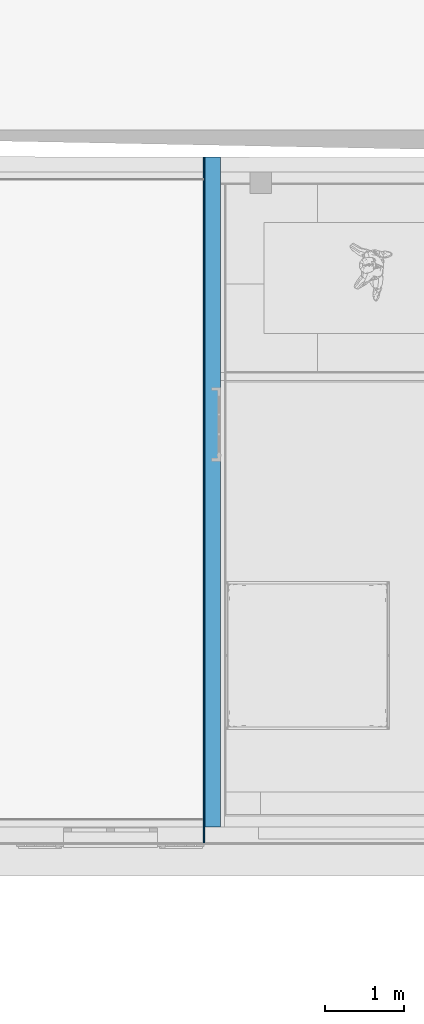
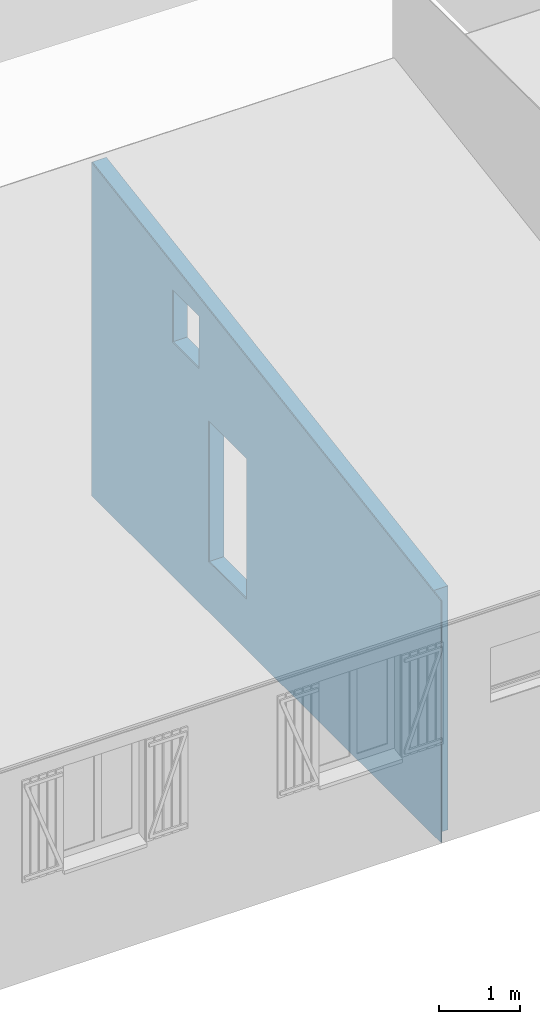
# One storey, part 11 of 24: 2 building element parts, 2 openings, 1 element without a shape of its own.
"""IFC2X3 building model written with IfcOpenShell, lengths in metres."""

from ifc_helpers import new_model, entity, si_unit, converted_unit, derived_unit, money_unit, direction, frame, origin_with_axes, origin_2d_with_axis, place, context, subcontext, project, spatial, polyline, rectangle, outline, extrude, boolean, faceted_brep, material, type_object, element, aggregate, save


model = new_model("IFC2X3")

# Units and contexts
model_context = context("Model", 3, precision=1e-05, world=origin_with_axes(), true_north=direction((0.0, 1.0)))
body_context = subcontext(model_context, "Body", "Model", "MODEL_VIEW")
ifc_project = project(units=[si_unit("LENGTHUNIT", "METRE"), si_unit("AREAUNIT", "SQUARE_METRE"), si_unit("VOLUMEUNIT", "CUBIC_METRE"), converted_unit("PLANEANGLEUNIT", "DEGREE", entity("IfcPlaneAngleMeasure", 0.0174532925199), si_unit("PLANEANGLEUNIT", "RADIAN"), dimensions=[0, 0, 0, 0, 0, 0, 0]), si_unit("SOLIDANGLEUNIT", "STERADIAN"), money_unit("CHF"), converted_unit("TIMEUNIT", "Year", entity("IfcTimeMeasure", 31556926.0), si_unit("TIMEUNIT", "SECOND"), dimensions=[0, 0, 1, 0, 0, 0, 0]), si_unit("MASSUNIT", "GRAM", prefix="KILO"), si_unit("THERMODYNAMICTEMPERATUREUNIT", "DEGREE_CELSIUS"), si_unit("LUMINOUSINTENSITYUNIT", "LUMEN"), si_unit("ENERGYUNIT", "JOULE", prefix="MEGA"), derived_unit("THERMALCONDUCTANCEUNIT", [(si_unit("POWERUNIT", "WATT"), 1), (si_unit("LENGTHUNIT", "METRE"), -1), (si_unit("THERMODYNAMICTEMPERATUREUNIT", "KELVIN"), -1)]), derived_unit("SPECIFICHEATCAPACITYUNIT", [(si_unit("ENERGYUNIT", "JOULE"), 1), (si_unit("MASSUNIT", "GRAM", prefix="KILO"), -1), (si_unit("THERMODYNAMICTEMPERATUREUNIT", "KELVIN"), -1)]), derived_unit("MASSDENSITYUNIT", [(si_unit("MASSUNIT", "GRAM", prefix="KILO"), 1), (si_unit("VOLUMEUNIT", "CUBIC_METRE"), -1)])], contexts=[model_context])

# Site, building, storey
site_placement = place(None, origin_with_axes())
site = spatial("IfcSite", under=ifc_project, at=site_placement, Name="Site", CompositionType="ELEMENT")
building_placement = place(site_placement, origin_with_axes())
building = spatial("IfcBuilding", under=site, at=building_placement, Name="Bâtiment", CompositionType="ELEMENT")
storey_placement = place(building_placement, origin_with_axes())
storey = spatial("IfcBuildingStorey", under=building, at=storey_placement, Name="Rez-de-chaussée", CompositionType="ELEMENT", Elevation=0.0)

# Wall, openings, building element parts
wall_type = type_object("IfcWallType", Name="0.0 - Mur ext: revét ext + maçonnerie 215", PredefinedType="ELEMENTEDWALL")
wall_placement = place(storey_placement, frame((23.6021417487, 7.9529346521, -0.6), z_axis=(0.0, 0.0, 1.0), x_axis=(0.0, 1.0, 0.0)))
wall = element("IfcWall", 1, at=wall_placement, inside=storey, type_object=wall_type, Name="MUR_EXT-003", ObjectType="ELEMENTEDWALL")
opening_1_placement = place(wall_placement, frame((5.065, 0.0, 0.76), z_axis=(0.0, 0.0, 1.0), x_axis=(1.0, 0.0, 0.0)))
element("IfcOpeningElement", 2, at=opening_1_placement, cuts=wall, Name="PORTE-004", context=body_context, shape_type="SweptSolid", body=[
    extrude(rectangle(XDim=0.93, YDim=2.12, at=origin_2d_with_axis()), frame((0.0, 0.215, 1.06), z_axis=(0.0, 1.0, 0.0), x_axis=(1.0, 0.0, 0.0)), (0.0, 0.0, -1.0), 0.645),
])
opening_2_placement = place(wall_placement, frame((-7.9529346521, 23.6021417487, 0.6), z_axis=(0.0, 0.0, 1.0), x_axis=(0.0, -1.0, 0.0)))
element("IfcOpeningElement", 3, at=opening_2_placement, cuts=wall, Name="PERCEMENT-002", ObjectType="EMPTY_OPENING", context=body_context, shape_type="SweptSolid", body=[
    extrude(rectangle(XDim=0.656363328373, YDim=0.787970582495, at=origin_2d_with_axis()), frame((23.8171417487, 14.0536985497, 3.31823561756), z_axis=(1.0, 0.0, 0.0), x_axis=(0.0, 1.0, 0.0)), (0.0, 0.0, -1.0), 0.645),
])
ifc_material_1 = material(Name="Brique ciment (extérieur)")
building_element_part_1_placement = place(wall_placement, origin_with_axes())
building_element_part_1 = element("IfcBuildingElementPart", 4, at=building_element_part_1_placement, material=ifc_material_1, Name="Brique ciment (extérieur)", context=body_context, shape_type="CSG", body=[
    boolean("DIFFERENCE", boolean("DIFFERENCE", boolean("DIFFERENCE", boolean("DIFFERENCE", boolean("DIFFERENCE", boolean("DIFFERENCE", boolean("DIFFERENCE", boolean("DIFFERENCE", extrude(outline(polyline([(-0.215, 0.0), (8.455, 0.0), (8.455, 0.2), (-0.215, 0.2), (-0.215, 0.0)])), origin_with_axes(), (0.0, 0.0, 1.0), 5.5967588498), faceted_brep([(1.25499229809, 0.0, 3.87376334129), (1.28974915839, 0.0, 3.65652623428), (1.38849329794, 0.0, 3.67232480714), (1.35373643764, 0.0, 3.88956191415), (1.25499229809, 0.0879253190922, 3.87376334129), (1.28974915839, 0.0879253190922, 3.65652623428), (1.38849329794, 0.0879253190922, 3.67232480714), (1.35373643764, 0.0879253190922, 3.88956191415)], [[[0, 1, 2, 3]], [[1, 0, 4, 5]], [[2, 1, 5, 6]], [[3, 2, 6, 7]], [[0, 3, 7, 4]], [[4, 7, 6, 5]]])), faceted_brep([(2.53866611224, 0.0, 4.0791447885), (2.57342297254, 0.0, 3.86190768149), (2.67216711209, 0.0, 3.87770625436), (2.63741025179, 0.0, 4.09494336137), (2.53866611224, 0.0879253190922, 4.0791447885), (2.57342297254, 0.0879253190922, 3.86190768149), (2.67216711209, 0.0879253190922, 3.87770625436), (2.63741025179, 0.0879253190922, 4.09494336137)], [[[0, 1, 2, 3]], [[1, 0, 4, 5]], [[2, 1, 5, 6]], [[3, 2, 6, 7]], [[0, 3, 7, 4]], [[4, 7, 6, 5]]])), faceted_brep([(3.8223399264, 0.0, 4.28452623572), (3.85709678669, 0.0, 4.06728912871), (3.95584092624, 0.0, 4.08308770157), (3.92108406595, 0.0, 4.30032480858), (3.8223399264, 0.0879253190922, 4.28452623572), (3.85709678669, 0.0879253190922, 4.06728912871), (3.95584092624, 0.0879253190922, 4.08308770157), (3.92108406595, 0.0879253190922, 4.30032480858)], [[[0, 1, 2, 3]], [[1, 0, 4, 5]], [[2, 1, 5, 6]], [[3, 2, 6, 7]], [[0, 3, 7, 4]], [[4, 7, 6, 5]]])), faceted_brep([(5.10601374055, 0.0, 4.48990768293), (5.14077060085, 0.0, 4.27267057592), (5.2395147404, 0.0, 4.28846914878), (5.2047578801, 0.0, 4.5057062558), (5.10601374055, 0.0879253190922, 4.48990768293), (5.14077060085, 0.0879253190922, 4.27267057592), (5.2395147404, 0.0879253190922, 4.28846914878), (5.2047578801, 0.0879253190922, 4.5057062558)], [[[0, 1, 2, 3]], [[1, 0, 4, 5]], [[2, 1, 5, 6]], [[3, 2, 6, 7]], [[0, 3, 7, 4]], [[4, 7, 6, 5]]])), faceted_brep([(6.3896875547, 0.0, 4.69528913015), (6.424444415, 0.0, 4.47805202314), (6.52318855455, 0.0, 4.493850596), (6.48843169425, 0.0, 4.71108770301), (6.3896875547, 0.0879253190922, 4.69528913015), (6.424444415, 0.0879253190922, 4.47805202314), (6.52318855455, 0.0879253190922, 4.493850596), (6.48843169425, 0.0879253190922, 4.71108770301)], [[[0, 1, 2, 3]], [[1, 0, 4, 5]], [[2, 1, 5, 6]], [[3, 2, 6, 7]], [[0, 3, 7, 4]], [[4, 7, 6, 5]]])), faceted_brep([(7.65083260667, 0.0, 4.89706608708), (7.68558946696, 0.0, 4.67982898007), (7.78433360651, 0.0, 4.69562755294), (7.74957674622, 0.0, 4.91286465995), (7.65083260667, 0.0879253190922, 4.89706608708), (7.68558946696, 0.0879253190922, 4.67982898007), (7.78433360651, 0.0879253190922, 4.69562755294), (7.74957674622, 0.0879253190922, 4.91286465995)], [[[0, 1, 2, 3]], [[1, 0, 4, 5]], [[2, 1, 5, 6]], [[3, 2, 6, 7]], [[0, 3, 7, 4]], [[4, 7, 6, 5]]])), faceted_brep([(0.0, 0.0, 0.0), (0.0, 0.0, 3.6743999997), (8.42601925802, 0.0, 5.02256308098), (8.4260192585, 0.0, 0.0), (8.455, 0.0, 0.0), (8.455, 0.0, 5.5967588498), (-0.215, 0.0, 5.5967588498), (-0.215, 0.0, 0.0), (0.0, 0.2, 0.0), (0.0, 0.2, 3.6743999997), (8.4264853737, 0.2, 5.02263765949), (8.42648537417, 0.2, 0.0), (8.455, 0.2, 0.0), (8.455, 0.2, 5.5967588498), (-0.215, 0.2, 5.5967588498), (-0.215, 0.2, 0.0)], [[[0, 1, 2, 3, 4, 5, 6, 7]], [[1, 0, 8, 9]], [[2, 1, 9, 10]], [[3, 2, 10, 11]], [[3, 11, 12, 4]], [[5, 4, 12, 13]], [[14, 6, 5, 13]], [[14, 15, 7, 6]], [[8, 0, 7, 15]], [[9, 8, 15, 14, 13, 12, 11, 10]]])), faceted_brep([(-0.2, 0.2, 3.6423999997), (8.4264853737, 0.2, 5.02263765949), (8.42648537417, 0.2, 0.0), (8.455, 0.2, 0.0), (8.455, 0.2, 5.5967588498), (-0.215, 0.2, 5.5967588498), (-0.215, 0.2, 0.0), (-0.2, 0.2, 0.0), (-0.2, 0.214999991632, 3.6423999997), (8.42652033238, 0.215, 5.02264325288), (8.42652033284, 0.215, 0.0), (8.455, 0.215, 0.0), (8.455, 0.215, 5.5967588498), (-0.215, 0.215, 5.5967588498), (-0.215, 0.215, 0.0), (-0.2, 0.214999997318, 0.0)], [[[0, 1, 2, 3, 4, 5, 6, 7]], [[1, 0, 8, 9]], [[10, 2, 1, 9]], [[2, 10, 11, 3]], [[4, 3, 11, 12]], [[13, 5, 4, 12]], [[13, 14, 6, 5]], [[15, 7, 6, 14]], [[0, 7, 15, 8]], [[8, 15, 14, 13, 12, 11, 10, 9]]])),
])
ifc_material_2 = material(Name="Finition ext - Crépis")
building_element_part_2_placement = place(wall_placement, origin_with_axes())
building_element_part_2 = element("IfcBuildingElementPart", 5, at=building_element_part_2_placement, material=ifc_material_2, Name="Finition ext - Crépis", context=body_context, shape_type="CSG", body=[
    boolean("DIFFERENCE", boolean("DIFFERENCE", boolean("DIFFERENCE", boolean("DIFFERENCE", boolean("DIFFERENCE", boolean("DIFFERENCE", boolean("DIFFERENCE", boolean("DIFFERENCE", extrude(outline(polyline([(-0.215, 0.2), (8.455, 0.2), (8.455, 0.215), (-0.215, 0.215), (-0.215, 0.2)])), origin_with_axes(), (0.0, 0.0, 1.0), 5.5967588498), faceted_brep([(1.25499229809, 0.0, 3.87376334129), (1.28974915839, 0.0, 3.65652623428), (1.38849329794, 0.0, 3.67232480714), (1.35373643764, 0.0, 3.88956191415), (1.25499229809, 0.0879253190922, 3.87376334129), (1.28974915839, 0.0879253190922, 3.65652623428), (1.38849329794, 0.0879253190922, 3.67232480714), (1.35373643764, 0.0879253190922, 3.88956191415)], [[[0, 1, 2, 3]], [[1, 0, 4, 5]], [[2, 1, 5, 6]], [[3, 2, 6, 7]], [[0, 3, 7, 4]], [[4, 7, 6, 5]]])), faceted_brep([(2.53866611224, 0.0, 4.0791447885), (2.57342297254, 0.0, 3.86190768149), (2.67216711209, 0.0, 3.87770625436), (2.63741025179, 0.0, 4.09494336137), (2.53866611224, 0.0879253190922, 4.0791447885), (2.57342297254, 0.0879253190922, 3.86190768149), (2.67216711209, 0.0879253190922, 3.87770625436), (2.63741025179, 0.0879253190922, 4.09494336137)], [[[0, 1, 2, 3]], [[1, 0, 4, 5]], [[2, 1, 5, 6]], [[3, 2, 6, 7]], [[0, 3, 7, 4]], [[4, 7, 6, 5]]])), faceted_brep([(3.8223399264, 0.0, 4.28452623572), (3.85709678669, 0.0, 4.06728912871), (3.95584092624, 0.0, 4.08308770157), (3.92108406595, 0.0, 4.30032480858), (3.8223399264, 0.0879253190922, 4.28452623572), (3.85709678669, 0.0879253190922, 4.06728912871), (3.95584092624, 0.0879253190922, 4.08308770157), (3.92108406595, 0.0879253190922, 4.30032480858)], [[[0, 1, 2, 3]], [[1, 0, 4, 5]], [[2, 1, 5, 6]], [[3, 2, 6, 7]], [[0, 3, 7, 4]], [[4, 7, 6, 5]]])), faceted_brep([(5.10601374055, 0.0, 4.48990768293), (5.14077060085, 0.0, 4.27267057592), (5.2395147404, 0.0, 4.28846914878), (5.2047578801, 0.0, 4.5057062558), (5.10601374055, 0.0879253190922, 4.48990768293), (5.14077060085, 0.0879253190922, 4.27267057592), (5.2395147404, 0.0879253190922, 4.28846914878), (5.2047578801, 0.0879253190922, 4.5057062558)], [[[0, 1, 2, 3]], [[1, 0, 4, 5]], [[2, 1, 5, 6]], [[3, 2, 6, 7]], [[0, 3, 7, 4]], [[4, 7, 6, 5]]])), faceted_brep([(6.3896875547, 0.0, 4.69528913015), (6.424444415, 0.0, 4.47805202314), (6.52318855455, 0.0, 4.493850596), (6.48843169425, 0.0, 4.71108770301), (6.3896875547, 0.0879253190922, 4.69528913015), (6.424444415, 0.0879253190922, 4.47805202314), (6.52318855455, 0.0879253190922, 4.493850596), (6.48843169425, 0.0879253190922, 4.71108770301)], [[[0, 1, 2, 3]], [[1, 0, 4, 5]], [[2, 1, 5, 6]], [[3, 2, 6, 7]], [[0, 3, 7, 4]], [[4, 7, 6, 5]]])), faceted_brep([(7.65083260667, 0.0, 4.89706608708), (7.68558946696, 0.0, 4.67982898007), (7.78433360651, 0.0, 4.69562755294), (7.74957674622, 0.0, 4.91286465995), (7.65083260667, 0.0879253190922, 4.89706608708), (7.68558946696, 0.0879253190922, 4.67982898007), (7.78433360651, 0.0879253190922, 4.69562755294), (7.74957674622, 0.0879253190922, 4.91286465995)], [[[0, 1, 2, 3]], [[1, 0, 4, 5]], [[2, 1, 5, 6]], [[3, 2, 6, 7]], [[0, 3, 7, 4]], [[4, 7, 6, 5]]])), faceted_brep([(0.0, 0.0, 0.0), (0.0, 0.0, 3.6743999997), (8.42601925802, 0.0, 5.02256308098), (8.4260192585, 0.0, 0.0), (8.455, 0.0, 0.0), (8.455, 0.0, 5.5967588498), (-0.215, 0.0, 5.5967588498), (-0.215, 0.0, 0.0), (0.0, 0.2, 0.0), (0.0, 0.2, 3.6743999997), (8.4264853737, 0.2, 5.02263765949), (8.42648537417, 0.2, 0.0), (8.455, 0.2, 0.0), (8.455, 0.2, 5.5967588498), (-0.215, 0.2, 5.5967588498), (-0.215, 0.2, 0.0)], [[[0, 1, 2, 3, 4, 5, 6, 7]], [[1, 0, 8, 9]], [[2, 1, 9, 10]], [[3, 2, 10, 11]], [[3, 11, 12, 4]], [[5, 4, 12, 13]], [[14, 6, 5, 13]], [[14, 15, 7, 6]], [[8, 0, 7, 15]], [[9, 8, 15, 14, 13, 12, 11, 10]]])), faceted_brep([(-0.2, 0.2, 3.6423999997), (8.4264853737, 0.2, 5.02263765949), (8.42648537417, 0.2, 0.0), (8.455, 0.2, 0.0), (8.455, 0.2, 5.5967588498), (-0.215, 0.2, 5.5967588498), (-0.215, 0.2, 0.0), (-0.2, 0.2, 0.0), (-0.2, 0.214999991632, 3.6423999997), (8.42652033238, 0.215, 5.02264325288), (8.42652033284, 0.215, 0.0), (8.455, 0.215, 0.0), (8.455, 0.215, 5.5967588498), (-0.215, 0.215, 5.5967588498), (-0.215, 0.215, 0.0), (-0.2, 0.214999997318, 0.0)], [[[0, 1, 2, 3, 4, 5, 6, 7]], [[1, 0, 8, 9]], [[10, 2, 1, 9]], [[2, 10, 11, 3]], [[4, 3, 11, 12]], [[13, 5, 4, 12]], [[13, 14, 6, 5]], [[15, 7, 6, 14]], [[0, 7, 15, 8]], [[8, 15, 14, 13, 12, 11, 10, 9]]])),
])
aggregate(wall, [building_element_part_1, building_element_part_2])

save(model, "model.ifc")
